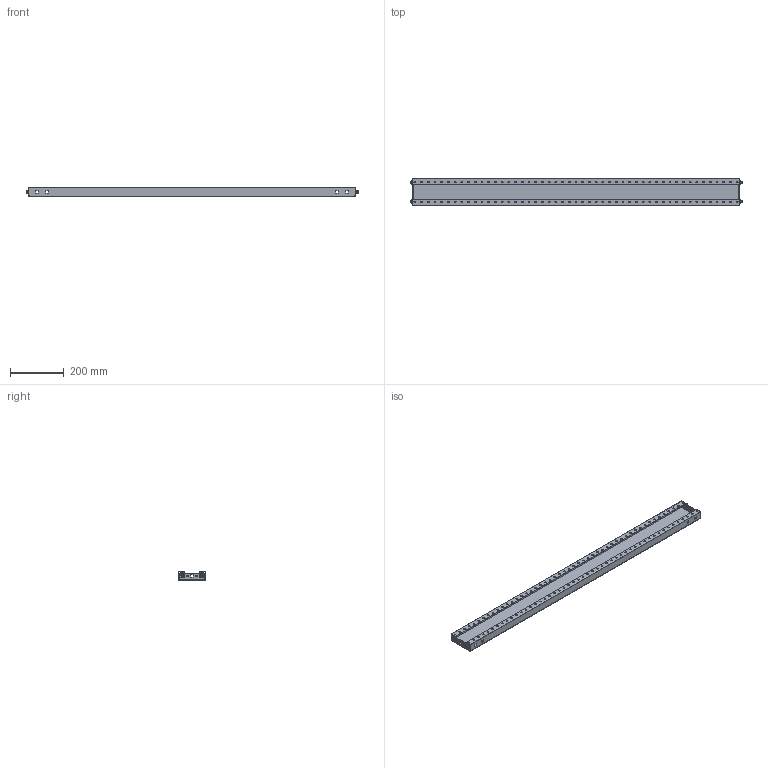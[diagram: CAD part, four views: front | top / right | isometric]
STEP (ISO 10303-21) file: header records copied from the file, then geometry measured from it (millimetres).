
FILE_DESCRIPTION(('Open CASCADE Model'),'2;1');
FILE_NAME('Open CASCADE Shape Model','2025-02-07T17:53:41',('Author'),( 'Open CASCADE'),'Open CASCADE STEP processor 7.8','Open CASCADE 7.8' ,'Unknown');
FILE_SCHEMA(('AUTOMOTIVE_DESIGN { 1 0 10303 214 1 1 1 1 }'));
Length unit declared in the file: millimetre
Products named in the file (5): Compound1; Solid1; Solid2; Solid3; Solid4
Assembly tree (13 placements, depth 2):
  Compound1
    Solid1
    Solid2  x4
    Solid3  x4
    Solid4  x4
Bounding box: 1236.2 x 100 x 30 mm (x, y, z)
Volume: 370039 mm3; surface area: 501263.7 mm2
Topology: 13 solids, 13 shells, 784 faces, 2198 edges, 1432 vertices
Faces by surface type: plane 378, cylinder 342, cone 32, bspline 16, torus 16
Full cylindrical faces by diameter (mm): 5.5 x4, 6.5 x98
Entity records: 26104 total; most frequent: CARTESIAN_POINT 16346, ORIENTED_EDGE 2004, DIRECTION 1900, EDGE_CURVE 1002, AXIS2_PLACEMENT_3D 671, VERTEX_POINT 661, FACE_BOUND 589, EDGE_LOOP 589
